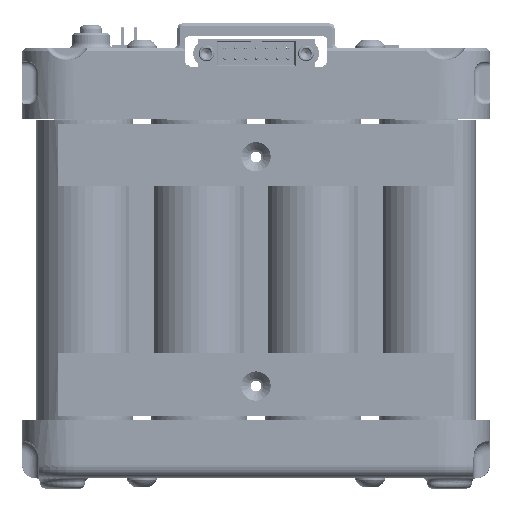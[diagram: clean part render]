
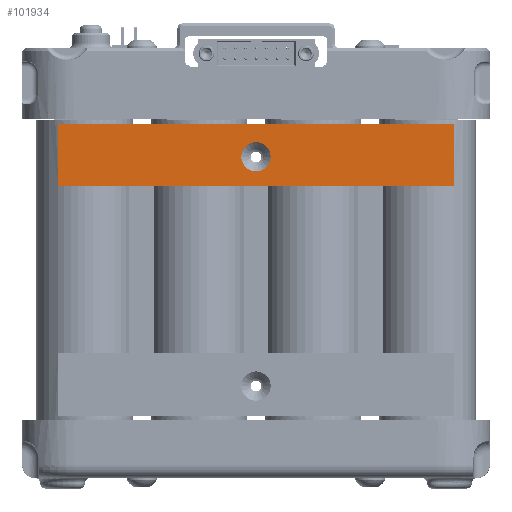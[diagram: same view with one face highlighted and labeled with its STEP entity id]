
A CAD part, left-side view. The second image highlights one B-rep face of the part: STEP entity #101934.
In plain terms, the highlighted planar face has unit normal (-1, 0, 0).
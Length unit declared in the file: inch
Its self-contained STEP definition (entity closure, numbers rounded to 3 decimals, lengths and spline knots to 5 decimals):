
#6303 = CARTESIAN_POINT ( 'NONE',  ( -2.12377, -1.00644, 3.69766 ) ) ;
#6955 = LINE ( 'NONE', #26778, #75022 ) ;
#13132 = DIRECTION ( 'NONE',  ( 0., 1., 0. ) ) ;
#14034 = EDGE_CURVE ( 'NONE', #176343, #80989, #34427, .T. ) ;
#19963 = DIRECTION ( 'NONE',  ( 0., -1., 0. ) ) ;
#22583 = VERTEX_POINT ( 'NONE', #104774 ) ;
#26778 = CARTESIAN_POINT ( 'NONE',  ( -2.12377, -2.49069, 3.47537 ) ) ;
#29075 = EDGE_LOOP ( 'NONE', ( #171343, #80196 ) ) ;
#34427 = LINE ( 'NONE', #108415, #174847 ) ;
#49807 = ORIENTED_EDGE ( 'NONE', *, *, #60930, .F. ) ;
#52904 = EDGE_CURVE ( 'NONE', #155823, #167658, #6955, .T. ) ;
#53205 = CARTESIAN_POINT ( 'NONE',  ( -2.12377, 0.71207, 4.23385 ) ) ;
#58482 = VECTOR ( 'NONE', #85210, 39.37008 ) ;
#58665 = EDGE_CURVE ( 'NONE', #22583, #71032, #89035, .T. ) ;
#59781 = CARTESIAN_POINT ( 'NONE',  ( -2.12377, -1.00644, 3.69766 ) ) ;
#60930 = EDGE_CURVE ( 'NONE', #167658, #176343, #94657, .T. ) ;
#66916 = DIRECTION ( 'NONE',  ( 0., 1., 0. ) ) ;
#67371 = DIRECTION ( 'NONE',  ( 0., -1., 0. ) ) ;
#69315 = ORIENTED_EDGE ( 'NONE', *, *, #14034, .F. ) ;
#71032 = VERTEX_POINT ( 'NONE', #126380 ) ;
#73500 = DIRECTION ( 'NONE',  ( 0., -1., 0. ) ) ;
#75022 = VECTOR ( 'NONE', #13132, 39.37008 ) ;
#76381 = ORIENTED_EDGE ( 'NONE', *, *, #52904, .F. ) ;
#80196 = ORIENTED_EDGE ( 'NONE', *, *, #106112, .F. ) ;
#80989 = VERTEX_POINT ( 'NONE', #107210 ) ;
#83294 = LINE ( 'NONE', #84936, #155649 ) ;
#83694 = FACE_BOUND ( 'NONE', #29075, .T. ) ;
#84936 = CARTESIAN_POINT ( 'NONE',  ( -2.12377, -2.49069, 1.43981 ) ) ;
#85210 = DIRECTION ( 'NONE',  ( 0., 0., 1. ) ) ;
#89035 = CIRCLE ( 'NONE', #120967, 0.11 ) ;
#94197 = CARTESIAN_POINT ( 'NONE',  ( -2.12377, 0.47781, 3.94737 ) ) ;
#94657 = LINE ( 'NONE', #98940, #58482 ) ;
#97484 = CARTESIAN_POINT ( 'NONE',  ( -2.12377, 0.47781, 3.47537 ) ) ;
#98940 = CARTESIAN_POINT ( 'NONE',  ( -2.12377, 0.47781, 1.43981 ) ) ;
#101414 = DIRECTION ( 'NONE',  ( -1., 0., 0. ) ) ;
#101934 = ADVANCED_FACE ( 'NONE', ( #83694, #156065 ), #161441, .F. ) ;
#102418 = AXIS2_PLACEMENT_3D ( 'NONE', #59781, #154897, #73500 ) ;
#104774 = CARTESIAN_POINT ( 'NONE',  ( -2.12377, -1.11644, 3.69766 ) ) ;
#106112 = EDGE_CURVE ( 'NONE', #71032, #22583, #113803, .T. ) ;
#107210 = CARTESIAN_POINT ( 'NONE',  ( -2.12377, -2.49069, 3.94737 ) ) ;
#108415 = CARTESIAN_POINT ( 'NONE',  ( -2.12377, 0.47781, 3.94737 ) ) ;
#112067 = CARTESIAN_POINT ( 'NONE',  ( -2.12377, -2.49069, 3.47537 ) ) ;
#113803 = CIRCLE ( 'NONE', #102418, 0.11 ) ;
#120967 = AXIS2_PLACEMENT_3D ( 'NONE', #6303, #101414, #19963 ) ;
#126380 = CARTESIAN_POINT ( 'NONE',  ( -2.12377, -0.89644, 3.69766 ) ) ;
#127439 = ORIENTED_EDGE ( 'NONE', *, *, #128186, .T. ) ;
#128186 = EDGE_CURVE ( 'NONE', #155823, #80989, #83294, .T. ) ;
#148312 = DIRECTION ( 'NONE',  ( 1., 0., 0. ) ) ;
#154897 = DIRECTION ( 'NONE',  ( -1., 0., 0. ) ) ;
#155649 = VECTOR ( 'NONE', #166374, 39.37008 ) ;
#155823 = VERTEX_POINT ( 'NONE', #112067 ) ;
#156065 = FACE_OUTER_BOUND ( 'NONE', #173403, .T. ) ;
#156584 = AXIS2_PLACEMENT_3D ( 'NONE', #53205, #148312, #66916 ) ;
#161441 = PLANE ( 'NONE',  #156584 ) ;
#166374 = DIRECTION ( 'NONE',  ( 0., 0., 1. ) ) ;
#167658 = VERTEX_POINT ( 'NONE', #97484 ) ;
#171343 = ORIENTED_EDGE ( 'NONE', *, *, #58665, .F. ) ;
#173403 = EDGE_LOOP ( 'NONE', ( #49807, #76381, #127439, #69315 ) ) ;
#174847 = VECTOR ( 'NONE', #67371, 39.37008 ) ;
#176343 = VERTEX_POINT ( 'NONE', #94197 ) ;
